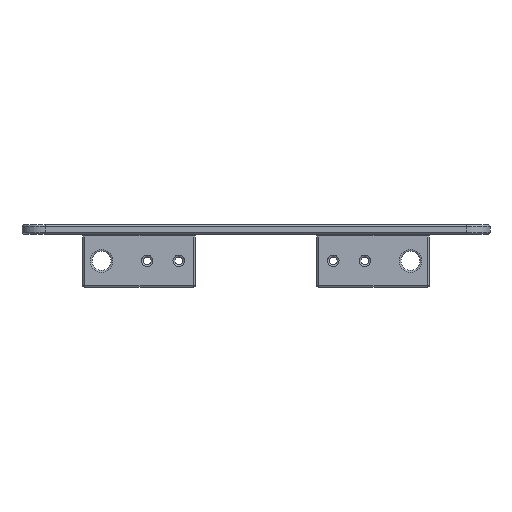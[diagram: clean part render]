
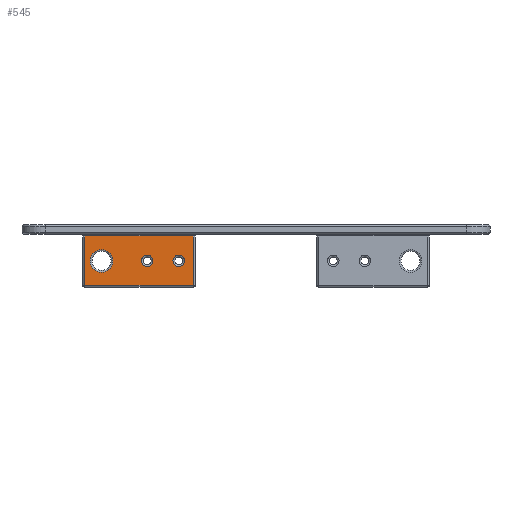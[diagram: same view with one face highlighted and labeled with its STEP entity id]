
A CAD part, front view. The second image highlights one B-rep face of the part: STEP entity #545.
In plain terms, the highlighted planar face has unit normal (0, -1, 0).
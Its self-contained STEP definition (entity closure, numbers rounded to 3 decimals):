
#44 = CYLINDRICAL_SURFACE('',#45,0.8);
#45 = AXIS2_PLACEMENT_3D('',#46,#47,#48);
#46 = CARTESIAN_POINT('',(-73.2,-36.2,21.25));
#47 = DIRECTION('',(0.,0.,1.));
#48 = DIRECTION('',(-1.,-0.,0.));
#143 = VERTEX_POINT('',#144);
#144 = CARTESIAN_POINT('',(-73.2,-37.,22.05));
#171 = EDGE_CURVE('',#143,#172,#174,.T.);
#172 = VERTEX_POINT('',#173);
#173 = CARTESIAN_POINT('',(-73.2,-37.,43.15));
#174 = SURFACE_CURVE('',#175,(#179,#186),.PCURVE_S1.);
#175 = LINE('',#176,#177);
#176 = CARTESIAN_POINT('',(-73.2,-37.,21.25));
#177 = VECTOR('',#178,1.);
#178 = DIRECTION('',(0.,0.,1.));
#179 = PCURVE('',#44,#180);
#180 = DEFINITIONAL_REPRESENTATION('',(#181),#185);
#181 = LINE('',#182,#183);
#182 = CARTESIAN_POINT('',(1.571,0.));
#183 = VECTOR('',#184,1.);
#184 = DIRECTION('',(0.,1.));
#185 = ( GEOMETRIC_REPRESENTATION_CONTEXT(2) 
PARAMETRIC_REPRESENTATION_CONTEXT() REPRESENTATION_CONTEXT('2D SPACE',''
  ) );
#186 = PCURVE('',#187,#192);
#187 = PLANE('',#188);
#188 = AXIS2_PLACEMENT_3D('',#189,#190,#191);
#189 = CARTESIAN_POINT('',(-74.,-37.,21.25));
#190 = DIRECTION('',(-0.,1.,0.));
#191 = DIRECTION('',(0.,0.,1.));
#192 = DEFINITIONAL_REPRESENTATION('',(#193),#197);
#193 = LINE('',#194,#195);
#194 = CARTESIAN_POINT('',(0.,0.8));
#195 = VECTOR('',#196,1.);
#196 = DIRECTION('',(1.,0.));
#197 = ( GEOMETRIC_REPRESENTATION_CONTEXT(2) 
PARAMETRIC_REPRESENTATION_CONTEXT() REPRESENTATION_CONTEXT('2D SPACE',''
  ) );
#480 = CYLINDRICAL_SURFACE('',#481,0.8);
#481 = AXIS2_PLACEMENT_3D('',#482,#483,#484);
#482 = CARTESIAN_POINT('',(-74.,-36.2,22.05));
#483 = DIRECTION('',(1.,0.,-0.));
#484 = DIRECTION('',(0.,-1.,0.));
#534 = CYLINDRICAL_SURFACE('',#535,0.8);
#535 = AXIS2_PLACEMENT_3D('',#536,#537,#538);
#536 = CARTESIAN_POINT('',(-26.,-37.8,43.15));
#537 = DIRECTION('',(-1.,-0.,0.));
#538 = DIRECTION('',(-0.,1.,0.));
#545 = ADVANCED_FACE('',(#546,#621,#656,#691),#187,.F.);
#546 = FACE_BOUND('',#547,.F.);
#547 = EDGE_LOOP('',(#548,#549,#572,#600));
#548 = ORIENTED_EDGE('',*,*,#171,.T.);
#549 = ORIENTED_EDGE('',*,*,#550,.F.);
#550 = EDGE_CURVE('',#551,#172,#553,.T.);
#551 = VERTEX_POINT('',#552);
#552 = CARTESIAN_POINT('',(-26.8,-37.,43.15));
#553 = SURFACE_CURVE('',#554,(#558,#565),.PCURVE_S1.);
#554 = LINE('',#555,#556);
#555 = CARTESIAN_POINT('',(-26.,-37.,43.15));
#556 = VECTOR('',#557,1.);
#557 = DIRECTION('',(-1.,-0.,0.));
#558 = PCURVE('',#187,#559);
#559 = DEFINITIONAL_REPRESENTATION('',(#560),#564);
#560 = LINE('',#561,#562);
#561 = CARTESIAN_POINT('',(21.9,48.));
#562 = VECTOR('',#563,1.);
#563 = DIRECTION('',(0.,-1.));
#564 = ( GEOMETRIC_REPRESENTATION_CONTEXT(2) 
PARAMETRIC_REPRESENTATION_CONTEXT() REPRESENTATION_CONTEXT('2D SPACE',''
  ) );
#565 = PCURVE('',#534,#566);
#566 = DEFINITIONAL_REPRESENTATION('',(#567),#571);
#567 = LINE('',#568,#569);
#568 = CARTESIAN_POINT('',(-0.,0.));
#569 = VECTOR('',#570,1.);
#570 = DIRECTION('',(-0.,1.));
#571 = ( GEOMETRIC_REPRESENTATION_CONTEXT(2) 
PARAMETRIC_REPRESENTATION_CONTEXT() REPRESENTATION_CONTEXT('2D SPACE',''
  ) );
#572 = ORIENTED_EDGE('',*,*,#573,.F.);
#573 = EDGE_CURVE('',#574,#551,#576,.T.);
#574 = VERTEX_POINT('',#575);
#575 = CARTESIAN_POINT('',(-26.8,-37.,22.05));
#576 = SURFACE_CURVE('',#577,(#581,#588),.PCURVE_S1.);
#577 = LINE('',#578,#579);
#578 = CARTESIAN_POINT('',(-26.8,-37.,21.25));
#579 = VECTOR('',#580,1.);
#580 = DIRECTION('',(0.,0.,1.));
#581 = PCURVE('',#187,#582);
#582 = DEFINITIONAL_REPRESENTATION('',(#583),#587);
#583 = LINE('',#584,#585);
#584 = CARTESIAN_POINT('',(0.,47.2));
#585 = VECTOR('',#586,1.);
#586 = DIRECTION('',(1.,0.));
#587 = ( GEOMETRIC_REPRESENTATION_CONTEXT(2) 
PARAMETRIC_REPRESENTATION_CONTEXT() REPRESENTATION_CONTEXT('2D SPACE',''
  ) );
#588 = PCURVE('',#589,#594);
#589 = CYLINDRICAL_SURFACE('',#590,0.8);
#590 = AXIS2_PLACEMENT_3D('',#591,#592,#593);
#591 = CARTESIAN_POINT('',(-26.8,-36.2,21.25));
#592 = DIRECTION('',(0.,0.,1.));
#593 = DIRECTION('',(0.,-1.,0.));
#594 = DEFINITIONAL_REPRESENTATION('',(#595),#599);
#595 = LINE('',#596,#597);
#596 = CARTESIAN_POINT('',(0.,0.));
#597 = VECTOR('',#598,1.);
#598 = DIRECTION('',(0.,1.));
#599 = ( GEOMETRIC_REPRESENTATION_CONTEXT(2) 
PARAMETRIC_REPRESENTATION_CONTEXT() REPRESENTATION_CONTEXT('2D SPACE',''
  ) );
#600 = ORIENTED_EDGE('',*,*,#601,.F.);
#601 = EDGE_CURVE('',#143,#574,#602,.T.);
#602 = SURFACE_CURVE('',#603,(#607,#614),.PCURVE_S1.);
#603 = LINE('',#604,#605);
#604 = CARTESIAN_POINT('',(-74.,-37.,22.05));
#605 = VECTOR('',#606,1.);
#606 = DIRECTION('',(1.,0.,-0.));
#607 = PCURVE('',#187,#608);
#608 = DEFINITIONAL_REPRESENTATION('',(#609),#613);
#609 = LINE('',#610,#611);
#610 = CARTESIAN_POINT('',(0.8,0.));
#611 = VECTOR('',#612,1.);
#612 = DIRECTION('',(0.,1.));
#613 = ( GEOMETRIC_REPRESENTATION_CONTEXT(2) 
PARAMETRIC_REPRESENTATION_CONTEXT() REPRESENTATION_CONTEXT('2D SPACE',''
  ) );
#614 = PCURVE('',#480,#615);
#615 = DEFINITIONAL_REPRESENTATION('',(#616),#620);
#616 = LINE('',#617,#618);
#617 = CARTESIAN_POINT('',(0.,0.));
#618 = VECTOR('',#619,1.);
#619 = DIRECTION('',(0.,1.));
#620 = ( GEOMETRIC_REPRESENTATION_CONTEXT(2) 
PARAMETRIC_REPRESENTATION_CONTEXT() REPRESENTATION_CONTEXT('2D SPACE',''
  ) );
#621 = FACE_BOUND('',#622,.F.);
#622 = EDGE_LOOP('',(#623));
#623 = ORIENTED_EDGE('',*,*,#624,.T.);
#624 = EDGE_CURVE('',#625,#625,#627,.T.);
#625 = VERTEX_POINT('',#626);
#626 = CARTESIAN_POINT('',(-66.,-37.,27.625));
#627 = SURFACE_CURVE('',#628,(#633,#644),.PCURVE_S1.);
#628 = CIRCLE('',#629,4.875);
#629 = AXIS2_PLACEMENT_3D('',#630,#631,#632);
#630 = CARTESIAN_POINT('',(-66.,-37.,32.5));
#631 = DIRECTION('',(0.,-1.,0.));
#632 = DIRECTION('',(0.,0.,-1.));
#633 = PCURVE('',#187,#634);
#634 = DEFINITIONAL_REPRESENTATION('',(#635),#643);
#635 = ( BOUNDED_CURVE() B_SPLINE_CURVE(2,(#636,#637,#638,#639,#640,#641
,#642),.UNSPECIFIED.,.T.,.F.) B_SPLINE_CURVE_WITH_KNOTS((1,2,2,2,2,1),(
    -2.094,0.,2.094,4.189,6.283,
8.378),.UNSPECIFIED.) CURVE() GEOMETRIC_REPRESENTATION_ITEM() 
RATIONAL_B_SPLINE_CURVE((1.,0.5,1.,0.5,1.,0.5,1.)) REPRESENTATION_ITEM(
  '') );
#636 = CARTESIAN_POINT('',(6.375,8.));
#637 = CARTESIAN_POINT('',(6.375,16.444));
#638 = CARTESIAN_POINT('',(13.688,12.222));
#639 = CARTESIAN_POINT('',(21.,8.));
#640 = CARTESIAN_POINT('',(13.688,3.778));
#641 = CARTESIAN_POINT('',(6.375,-0.444));
#642 = CARTESIAN_POINT('',(6.375,8.));
#643 = ( GEOMETRIC_REPRESENTATION_CONTEXT(2) 
PARAMETRIC_REPRESENTATION_CONTEXT() REPRESENTATION_CONTEXT('2D SPACE',''
  ) );
#644 = PCURVE('',#645,#650);
#645 = TOROIDAL_SURFACE('',#646,4.875,0.8);
#646 = AXIS2_PLACEMENT_3D('',#647,#648,#649);
#647 = CARTESIAN_POINT('',(-66.,-36.2,32.5));
#648 = DIRECTION('',(0.,-1.,-0.));
#649 = DIRECTION('',(0.,0.,-1.));
#650 = DEFINITIONAL_REPRESENTATION('',(#651),#655);
#651 = LINE('',#652,#653);
#652 = CARTESIAN_POINT('',(0.,1.571));
#653 = VECTOR('',#654,1.);
#654 = DIRECTION('',(1.,0.));
#655 = ( GEOMETRIC_REPRESENTATION_CONTEXT(2) 
PARAMETRIC_REPRESENTATION_CONTEXT() REPRESENTATION_CONTEXT('2D SPACE',''
  ) );
#656 = FACE_BOUND('',#657,.F.);
#657 = EDGE_LOOP('',(#658));
#658 = ORIENTED_EDGE('',*,*,#659,.T.);
#659 = EDGE_CURVE('',#660,#660,#662,.T.);
#660 = VERTEX_POINT('',#661);
#661 = CARTESIAN_POINT('',(-46.5,-37.,30.025));
#662 = SURFACE_CURVE('',#663,(#668,#679),.PCURVE_S1.);
#663 = CIRCLE('',#664,2.475);
#664 = AXIS2_PLACEMENT_3D('',#665,#666,#667);
#665 = CARTESIAN_POINT('',(-46.5,-37.,32.5));
#666 = DIRECTION('',(0.,-1.,0.));
#667 = DIRECTION('',(0.,0.,-1.));
#668 = PCURVE('',#187,#669);
#669 = DEFINITIONAL_REPRESENTATION('',(#670),#678);
#670 = ( BOUNDED_CURVE() B_SPLINE_CURVE(2,(#671,#672,#673,#674,#675,#676
,#677),.UNSPECIFIED.,.T.,.F.) B_SPLINE_CURVE_WITH_KNOTS((1,2,2,2,2,1),(
    -2.094,0.,2.094,4.189,6.283,
8.378),.UNSPECIFIED.) CURVE() GEOMETRIC_REPRESENTATION_ITEM() 
RATIONAL_B_SPLINE_CURVE((1.,0.5,1.,0.5,1.,0.5,1.)) REPRESENTATION_ITEM(
  '') );
#671 = CARTESIAN_POINT('',(8.775,27.5));
#672 = CARTESIAN_POINT('',(8.775,31.787));
#673 = CARTESIAN_POINT('',(12.488,29.643));
#674 = CARTESIAN_POINT('',(16.2,27.5));
#675 = CARTESIAN_POINT('',(12.488,25.357));
#676 = CARTESIAN_POINT('',(8.775,23.213));
#677 = CARTESIAN_POINT('',(8.775,27.5));
#678 = ( GEOMETRIC_REPRESENTATION_CONTEXT(2) 
PARAMETRIC_REPRESENTATION_CONTEXT() REPRESENTATION_CONTEXT('2D SPACE',''
  ) );
#679 = PCURVE('',#680,#685);
#680 = TOROIDAL_SURFACE('',#681,2.475,0.8);
#681 = AXIS2_PLACEMENT_3D('',#682,#683,#684);
#682 = CARTESIAN_POINT('',(-46.5,-36.2,32.5));
#683 = DIRECTION('',(0.,-1.,-0.));
#684 = DIRECTION('',(0.,0.,-1.));
#685 = DEFINITIONAL_REPRESENTATION('',(#686),#690);
#686 = LINE('',#687,#688);
#687 = CARTESIAN_POINT('',(0.,1.571));
#688 = VECTOR('',#689,1.);
#689 = DIRECTION('',(1.,0.));
#690 = ( GEOMETRIC_REPRESENTATION_CONTEXT(2) 
PARAMETRIC_REPRESENTATION_CONTEXT() REPRESENTATION_CONTEXT('2D SPACE',''
  ) );
#691 = FACE_BOUND('',#692,.F.);
#692 = EDGE_LOOP('',(#693));
#693 = ORIENTED_EDGE('',*,*,#694,.T.);
#694 = EDGE_CURVE('',#695,#695,#697,.T.);
#695 = VERTEX_POINT('',#696);
#696 = CARTESIAN_POINT('',(-33.,-37.,30.025));
#697 = SURFACE_CURVE('',#698,(#703,#714),.PCURVE_S1.);
#698 = CIRCLE('',#699,2.475);
#699 = AXIS2_PLACEMENT_3D('',#700,#701,#702);
#700 = CARTESIAN_POINT('',(-33.,-37.,32.5));
#701 = DIRECTION('',(0.,-1.,0.));
#702 = DIRECTION('',(0.,0.,-1.));
#703 = PCURVE('',#187,#704);
#704 = DEFINITIONAL_REPRESENTATION('',(#705),#713);
#705 = ( BOUNDED_CURVE() B_SPLINE_CURVE(2,(#706,#707,#708,#709,#710,#711
,#712),.UNSPECIFIED.,.T.,.F.) B_SPLINE_CURVE_WITH_KNOTS((1,2,2,2,2,1),(
    -2.094,0.,2.094,4.189,6.283,
8.378),.UNSPECIFIED.) CURVE() GEOMETRIC_REPRESENTATION_ITEM() 
RATIONAL_B_SPLINE_CURVE((1.,0.5,1.,0.5,1.,0.5,1.)) REPRESENTATION_ITEM(
  '') );
#706 = CARTESIAN_POINT('',(8.775,41.));
#707 = CARTESIAN_POINT('',(8.775,45.287));
#708 = CARTESIAN_POINT('',(12.488,43.143));
#709 = CARTESIAN_POINT('',(16.2,41.));
#710 = CARTESIAN_POINT('',(12.488,38.857));
#711 = CARTESIAN_POINT('',(8.775,36.713));
#712 = CARTESIAN_POINT('',(8.775,41.));
#713 = ( GEOMETRIC_REPRESENTATION_CONTEXT(2) 
PARAMETRIC_REPRESENTATION_CONTEXT() REPRESENTATION_CONTEXT('2D SPACE',''
  ) );
#714 = PCURVE('',#715,#720);
#715 = TOROIDAL_SURFACE('',#716,2.475,0.8);
#716 = AXIS2_PLACEMENT_3D('',#717,#718,#719);
#717 = CARTESIAN_POINT('',(-33.,-36.2,32.5));
#718 = DIRECTION('',(0.,-1.,-0.));
#719 = DIRECTION('',(0.,0.,-1.));
#720 = DEFINITIONAL_REPRESENTATION('',(#721),#725);
#721 = LINE('',#722,#723);
#722 = CARTESIAN_POINT('',(0.,1.571));
#723 = VECTOR('',#724,1.);
#724 = DIRECTION('',(1.,0.));
#725 = ( GEOMETRIC_REPRESENTATION_CONTEXT(2) 
PARAMETRIC_REPRESENTATION_CONTEXT() REPRESENTATION_CONTEXT('2D SPACE',''
  ) );
